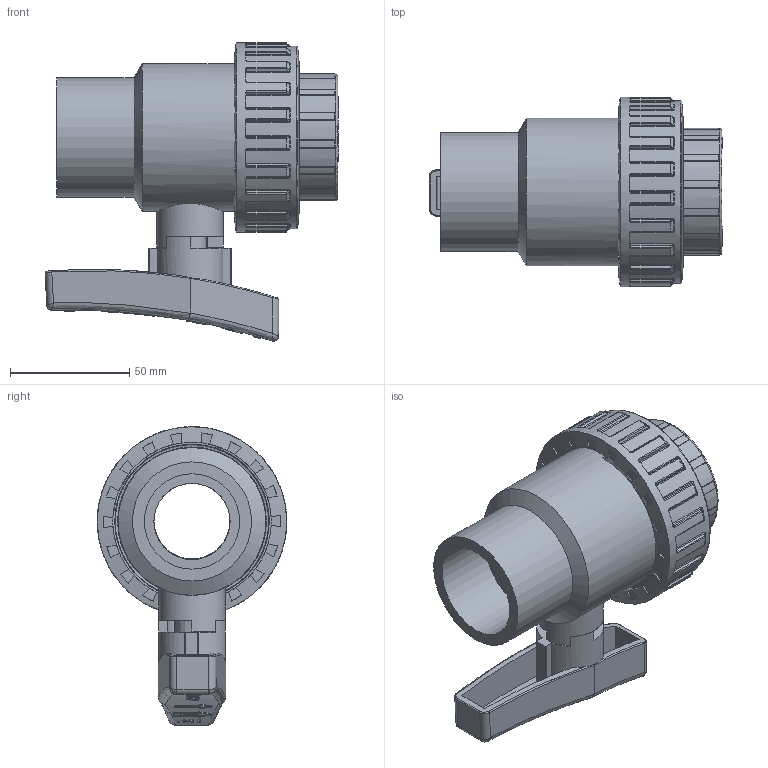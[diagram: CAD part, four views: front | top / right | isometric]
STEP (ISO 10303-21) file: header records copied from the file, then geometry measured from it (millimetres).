
FILE_DESCRIPTION(/* description */ (''),/* implementation_level */ '2;1');
FILE_NAME(/* name */ 'C:\ex desktop\VALVOLE SFERA\BV ACQUA\VALVOLE BVS MM\BVS40\BVS40040\BVS40040_new_handle.stp',/* time_stamp */ '2019-04-17T09:54:02+02:00',/* author */ ('e.sacchi'),/* organization */ (''),/* preprocessor_version */ 'ST-DEVELOPER v16.13',/* originating_system */ 'Autodesk Inventor 2018',/* authorisation */ '');
FILE_SCHEMA (('AUTOMOTIVE_DESIGN { 1 0 10303 214 3 1 1 }'));
Length unit declared in the file: millimetre
Products named in the file (13): BVS10040; CORPO_BVS_10_d_40; asta_BVD_40_d_40; sfera_BVI_10_d_40; LAV03037E; supporto_BVD_40_d_40; LAV3143E; PTFE_BVI_10_d_40; LAV6162E; LAV6150E; collare_BVD_40_d_40; ghiera_BVD_40_d_40; maniglia_BVI_10_d_32
Assembly tree (15 placements, depth 2):
  BVS10040
    CORPO_BVS_10_d_40
    asta_BVD_40_d_40
    sfera_BVI_10_d_40
    LAV03037E  x2
    LAV3143E  x2
    PTFE_BVI_10_d_40  x2
    supporto_BVD_40_d_40
    LAV6162E
    LAV6150E
    collare_BVD_40_d_40
    ghiera_BVD_40_d_40
    maniglia_BVI_10_d_32
Bounding box: 123.32 x 79.5 x 125.27 mm (x, y, z)
Volume: 250563.1 mm3; surface area: 123589.5 mm2
Topology: 17 solids, 17 shells, 1466 faces, 3788 edges, 2417 vertices
Faces by surface type: plane 612, bspline 336, cylinder 301, torus 142, sphere 41, cone 34
Full cylindrical faces by diameter (mm): 10.036 x1, 15 x1, 17.2 x1, 17.7 x1, 27.8 x1, 32 x4, 37 x2, 40 x2, 40.5 x1, 42 x4, 50 x1, 51.5 x1, 52.3 x1, 53 x1, 53.816 x2, 55 x3, 62 x3, 66.5 x4, 76.5 x1, 79.5 x1
Entity records: 63199 total; most frequent: CARTESIAN_POINT 28648, ORIENTED_EDGE 7378, DIRECTION 6745, EDGE_CURVE 3689, AXIS2_PLACEMENT_3D 2536, VERTEX_POINT 2382, LINE 1673, VECTOR 1673
